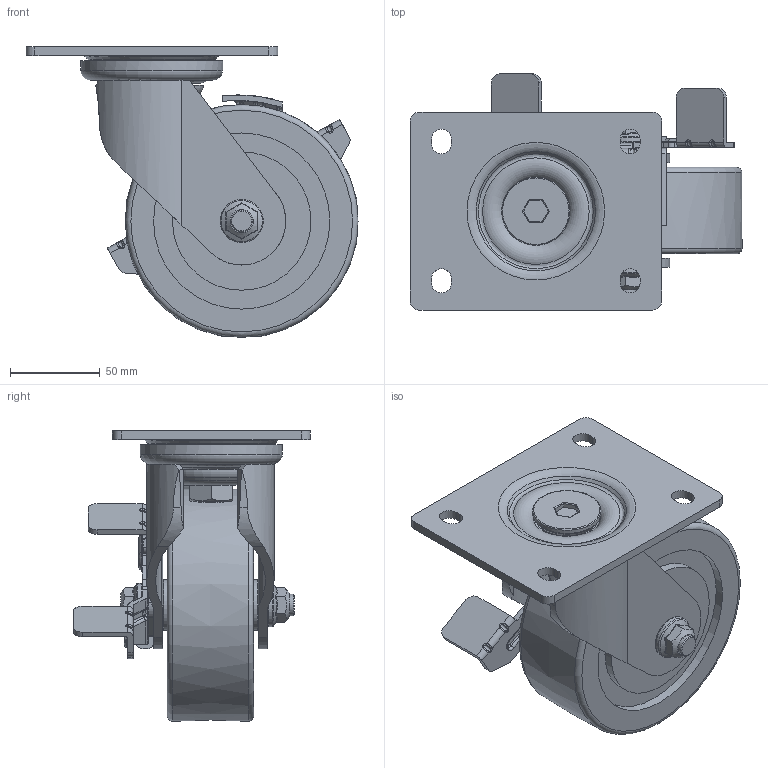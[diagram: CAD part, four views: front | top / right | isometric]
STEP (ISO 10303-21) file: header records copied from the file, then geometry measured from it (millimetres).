
FILE_DESCRIPTION((''),'2;1');
FILE_NAME('C:\Documents and Settings\Administrator\바탕 화면\3D STEP\PMW-SERIES\PMW-130\PMW-130B-SF.stp','2010-12-27T15:05:59',('Administrator'),(''),'Autodesk Inventor 2009','Autodesk Inventor 2009','');
FILE_SCHEMA(('AUTOMOTIVE_DESIGN { 1 0 10303 214 1 1 1 1 }'));
Length unit declared in the file: millimetre
Products named in the file (1): PMW-130B-SF
Bounding box: 184.68 x 131.5 x 161.68 mm (x, y, z)
Volume: 813039.1 mm3; surface area: 178362 mm2
Topology: 1 solids, 11 shells, 747 faces, 1848 edges, 1122 vertices
Faces by surface type: cylinder 253, plane 219, bspline 186, torus 51, cone 34, sphere 4
Full cylindrical faces by diameter (mm): 12 x1, 15 x2, 15.2 x2, 16 x2, 18 x2, 20 x4, 20.2 x2, 24 x2, 26 x1, 28 x2, 29 x8, 38 x9, 42 x1, 47 x4, 69 x1, 77 x2, 79 x1, 98 x2
Entity records: 30689 total; most frequent: CARTESIAN_POINT 14518, DIRECTION 3297, ORIENTED_EDGE 3254, EDGE_CURVE 1627, AXIS2_PLACEMENT_3D 1346, VERTEX_POINT 1063, EDGE_LOOP 952, FACE_OUTER_BOUND 747
